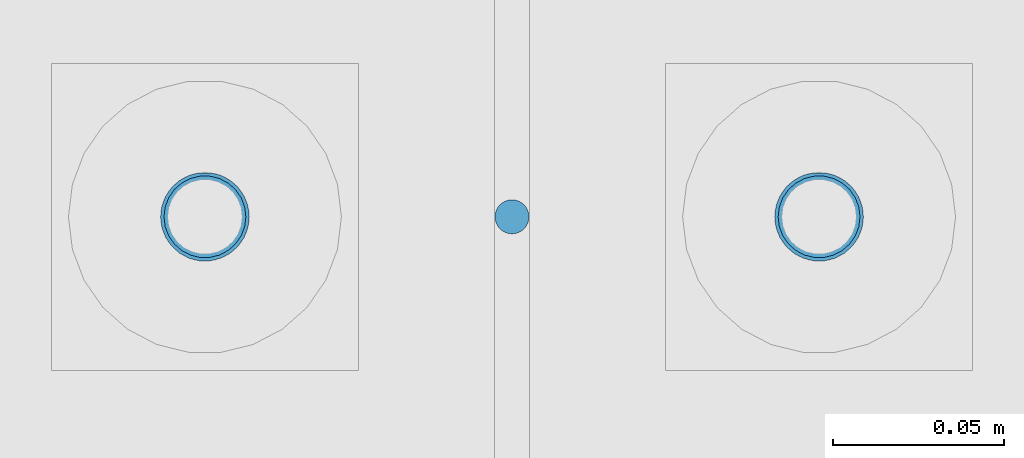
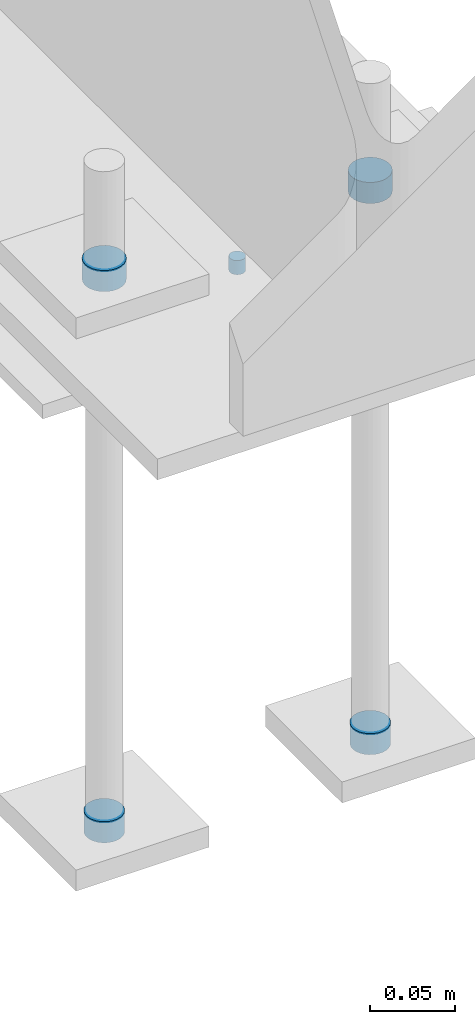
# One storey, part 99 of 123: 5 mechanical fasteners, 1 element without a shape of its own.
"""IFC2X3 building model written with IfcOpenShell, lengths in millimetres."""

from ifc_helpers import new_model, si_unit, frame, origin_with_axes, origin_2d_with_axis, place, context, subcontext, project, spatial, circle, extrude, source, transform, mapped, material, type_object, element, aggregate, save


model = new_model("IFC2X3")

# Units and contexts
model_context = context("Model", 3, precision=1e-05, world=origin_with_axes())
body_context = subcontext(model_context, "Body", "Model", "MODEL_VIEW")
ifc_project = project(units=[si_unit("LENGTHUNIT", "METRE", prefix="MILLI"), si_unit("AREAUNIT", "SQUARE_METRE"), si_unit("VOLUMEUNIT", "CUBIC_METRE"), si_unit("MASSUNIT", "GRAM", prefix="KILO"), si_unit("TIMEUNIT", "SECOND"), si_unit("PLANEANGLEUNIT", "RADIAN"), si_unit("SOLIDANGLEUNIT", "STERADIAN"), si_unit("THERMODYNAMICTEMPERATUREUNIT", "DEGREE_CELSIUS"), si_unit("LUMINOUSINTENSITYUNIT", "LUMEN")], contexts=[model_context])

# Site, building, storey
site_placement = place(None, origin_with_axes())
site = spatial("IfcSite", under=ifc_project, at=site_placement, Name="Undefined", CompositionType="ELEMENT")
building_placement = place(site_placement, origin_with_axes())
building = spatial("IfcBuilding", under=site, at=building_placement, Name="Undefined", CompositionType="ELEMENT")
storey_placement = place(building_placement, origin_with_axes())
storey = spatial("IfcBuildingStorey", under=building, at=storey_placement, Name="Undefined", CompositionType="ELEMENT", Elevation=0.0)

# Assembly, mechanical fasteners
assembly_placement = place(storey_placement, origin_with_axes())
assembly = element("IfcElementAssembly", 1, at=assembly_placement, inside=storey, Name="Steel Assembly", AssemblyPlace="NOTDEFINED", PredefinedType="RIGID_FRAME")
ifc_material = material(Name="6.8")
discrete_accessory_type = type_object("IfcDiscreteAccessoryType", Name="Bolt assembly")
shared_shape_1 = source(origin_with_axes(), body_context, "Body", "SweptSolid", [
    extrude(circle(Radius=13.0, at=origin_2d_with_axis()), frame((0.0, -15.0, 0.0), z_axis=(0.0, 1.0, 0.0), x_axis=(1.0, 0.0, 0.0)), (0.0, 0.0, 1.0), 15.1),
])
mechanical_fastener_1_placement = place(assembly_placement, frame((8389.99715044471, 0.0, -235.0), z_axis=(0.0, -1.0, 0.0), x_axis=(-1.0, 0.0, 0.0)))
mechanical_fastener_1 = element("IfcMechanicalFastener", 2, at=mechanical_fastener_1_placement, type_object=discrete_accessory_type, material=ifc_material, Name="Bolt assembly", NominalDiameter=24.0, NominalLength=15.0, context=body_context, shape_type="MappedRepresentation", body=[
    mapped(shared_shape_1, transform((0.0, 0.0, 0.0))),
])
mechanical_fastener_2_placement = place(assembly_placement, frame((8569.99715044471, 0.0, -235.0), z_axis=(0.0, -1.0, 0.0), x_axis=(-1.0, 0.0, 0.0)))
mechanical_fastener_2 = element("IfcMechanicalFastener", 3, at=mechanical_fastener_2_placement, type_object=discrete_accessory_type, material=ifc_material, Name="Bolt assembly", NominalDiameter=24.0, NominalLength=15.0, context=body_context, shape_type="MappedRepresentation", body=[
    mapped(shared_shape_1, transform((0.0, 0.0, 0.0))),
])
shared_shape_2 = source(origin_with_axes(), body_context, "Body", "SweptSolid", [
    extrude(circle(Radius=12.0, at=origin_2d_with_axis()), frame((0.0, -15.0, 0.0), z_axis=(0.0, 1.0, 0.0), x_axis=(1.0, 0.0, 0.0)), (0.0, 0.0, 1.0), 15.1),
])
mechanical_fastener_3_placement = place(assembly_placement, frame((8389.99715044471, 0.0, -630.0), z_axis=(0.0, -1.0, 0.0), x_axis=(-1.0, 0.0, 0.0)))
mechanical_fastener_3 = element("IfcMechanicalFastener", 4, at=mechanical_fastener_3_placement, type_object=discrete_accessory_type, material=ifc_material, Name="Bolt assembly", NominalDiameter=22.0, NominalLength=15.0, context=body_context, shape_type="MappedRepresentation", body=[
    mapped(shared_shape_2, transform((0.0, 0.0, 0.0))),
])
mechanical_fastener_4_placement = place(assembly_placement, frame((8569.99715044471, 0.0, -630.0), z_axis=(0.0, -1.0, 0.0), x_axis=(-1.0, 0.0, 0.0)))
mechanical_fastener_4 = element("IfcMechanicalFastener", 5, at=mechanical_fastener_4_placement, type_object=discrete_accessory_type, material=ifc_material, Name="Bolt assembly", NominalDiameter=22.0, NominalLength=15.0, context=body_context, shape_type="MappedRepresentation", body=[
    mapped(shared_shape_2, transform((0.0, 0.0, 0.0))),
])
shared_shape_3 = source(origin_with_axes(), body_context, "Body", "SweptSolid", [
    extrude(circle(Radius=5.0, at=origin_2d_with_axis()), frame((0.0, 0.0, 0.0), z_axis=(0.0, 1.0, 0.0), x_axis=(1.0, 0.0, 0.0)), (0.0, 0.0, 1.0), 10.1),
])
mechanical_fastener_5_placement = place(assembly_placement, frame((8480.00000007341, 0.0, -250.0), z_axis=(1.0, 0.0, 0.0), x_axis=(0.0, -1.0, 0.0)))
mechanical_fastener_5 = element("IfcMechanicalFastener", 6, at=mechanical_fastener_5_placement, type_object=discrete_accessory_type, material=ifc_material, Name="Bolt assembly", NominalDiameter=8.0, NominalLength=10.0, context=body_context, shape_type="MappedRepresentation", body=[
    mapped(shared_shape_3, transform((0.0, 0.0, 0.0))),
])
aggregate(assembly, [mechanical_fastener_1, mechanical_fastener_2, mechanical_fastener_3, mechanical_fastener_4, mechanical_fastener_5])

save(model, "model.ifc")
